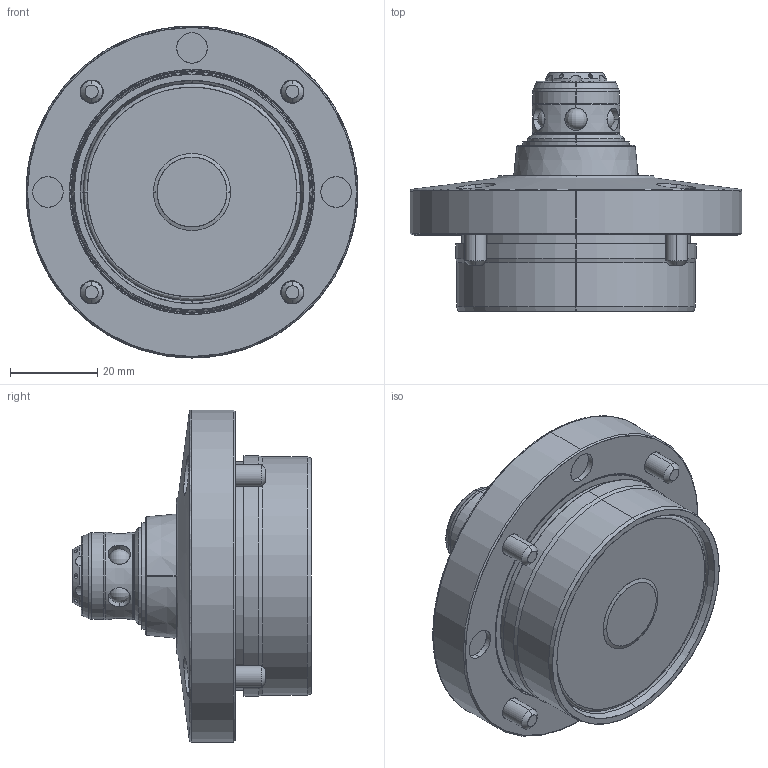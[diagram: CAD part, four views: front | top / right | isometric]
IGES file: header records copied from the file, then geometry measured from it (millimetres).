
Start section: SolidWorks IGES file using analytic representation for surfaces
Global section: file name: C:\Documents and Settings\D211\デスクトップ\IGES・STEP203変換用中間ﾌｫﾙﾀﾞ\SWT0030-MD.igs; native system: SolidWorks 2009; preprocessor: SolidWorks 2009; author: D211; date: 100804.162151; units: millimetre
Bounding box: 76 x 54.7 x 76 mm (x, y, z)
Surface area: 31080.1 mm2 (no closed solid volume)
Topology: 0 solids, 0 shells, 351 faces, 5847 edges, 5827 vertices
Faces by surface type: revolution 229, bspline 122
